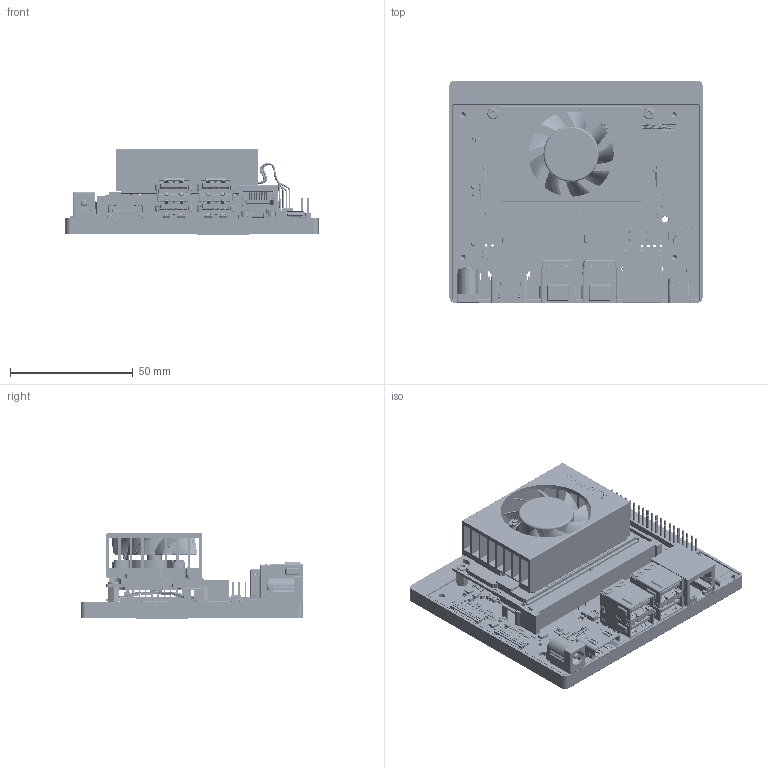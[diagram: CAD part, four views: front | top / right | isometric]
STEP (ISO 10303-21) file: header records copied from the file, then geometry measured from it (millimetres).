
FILE_DESCRIPTION((''),'2;1');
FILE_NAME('0001_ASM','2026-01-12T11:21:18',('Lenovo'),(''),'CREO PARAMETRIC BY PTC INC, 2022073','CREO PARAMETRIC BY PTC INC, 2022073','');
FILE_SCHEMA(('AUTOMOTIVE_DESIGN { 1 0 10303 214 1 1 1 1 }'));
Products named in the file (730): 155-0901-000_1; GROGU_MODULE_BOARD_ME_1; 080-1655-000_3_1_1; 080-1655-000_3_1_2; 080-1655-000_3_1_3; 080-1655-000_3_1_4; 080-1655-000_3_1_5; 080-1655-000_3_1_6; 080-1655-000_3_1_7; 080-1655-000_3_1_8; 080-1655-000_3_1_9; 080-1655-000_3_1_10; 080-1655-000_3_1_11; 080-1655-000_3_1_12; 080-1655-000_3_1_13; 080-1655-000_3_1_14; 080-1655-000_3_1_15; 080-1655-000_3_1_16; 080-1655-000_3_1_17; 080-1655-000_3_1_18; 080-1655-000_3_1_19; 080-1655-000_3_1_20; 080-1655-000_3_1_21; 080-1655-000_3_1_22; 080-1655-000_3_1_23; 080-1655-000_3_1_24; 080-1655-000_3_1_25; 080-1655-000_3_1_26; 080-1655-000_3_1_27; 080-1655-000_3_1_28; 080-1655-000_3_1_29; 080-1655-000_3_1_30; 080-1655-000_3_1_31; 080-1655-000_3_1_32; 080-1655-000_3_1_33; 080-1655-000_3_1_34; 080-1655-000_3_1_35; 080-1655-000_3_1_36; 080-1655-000_3_1_37; 080-1655-000_3_1_38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
Assembly tree (1407 placements, depth 8):
  0001_ASM
    000_ARVALA_TLA_ASM_1_ASM
      155-0901-000_1  x2
      P3767_ASM_1_ASM
        P3767-GROGU_ASM_1_ASM
          GROGU_MODULE_BOARD_ME_1
          080-1655-000_3_1_ASM
            080-1655-000_3_1_1
            080-1655-000_3_1_2
            080-1655-000_3_1_3
            080-1655-000_3_1_4
            080-1655-000_3_1_5
            080-1655-000_3_1_6
            080-1655-000_3_1_7
            080-1655-000_3_1_8
            080-1655-000_3_1_9
            080-1655-000_3_1_10
            080-1655-000_3_1_11
            080-1655-000_3_1_12
            080-1655-000_3_1_13
            080-1655-000_3_1_14
            080-1655-000_3_1_15
            080-1655-000_3_1_16
            080-1655-000_3_1_17
            080-1655-000_3_1_18
            080-1655-000_3_1_19
            080-1655-000_3_1_20
            080-1655-000_3_1_21
            080-1655-000_3_1_22
            080-1655-000_3_1_23
            080-1655-000_3_1_24
            080-1655-000_3_1_25
            080-1655-000_3_1_26
            080-1655-000_3_1_27
            080-1655-000_3_1_28
            080-1655-000_3_1_29
            080-1655-000_3_1_30
            080-1655-000_3_1_31
            080-1655-000_3_1_32
            080-1655-000_3_1_33
            080-1655-000_3_1_34
            080-1655-000_3_1_35
            080-1655-000_3_1_36
            080-1655-000_3_1_37
            080-1655-000_3_1_38
            080-1655-000_3_1_39
            080-1655-000_3_1_40
            080-1655-000_3_1_41
            080-1655-000_3_1_42
            080-1655-000_3_1_43
            080-1655-000_3_1_44
            080-1655-000_3_1_45
            080-1655-000_3_1_46
            080-1655-000_3_1_47
            080-1655-000_3_1_48
            080-1655-000_3_1_49
            080-1655-000_3_1_50
            080-1655-000_3_1_51
            080-1655-000_3_1_52
            080-1655-000_3_1_53
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Bounding box: 103 x 90.75 x 34.67 mm (x, y, z)
Volume: 74344.5 mm3; surface area: 109883.1 mm2
Topology: 1394 solids, 1415 shells, 53627 faces, 146417 edges, 96518 vertices
Faces by surface type: plane 43066, cylinder 9098, bspline 710, cone 261, torus 236, extrusion 167, sphere 89
Entity records: 1351983 total; most frequent: CARTESIAN_POINT 233850, ORIENTED_EDGE 162242, DIRECTION 158187, EDGE_CURVE 81151, PRESENTATION_STYLE_ASSIGNMENT 73865, STYLED_ITEM 69045, VECTOR 65279, LINE 65144
